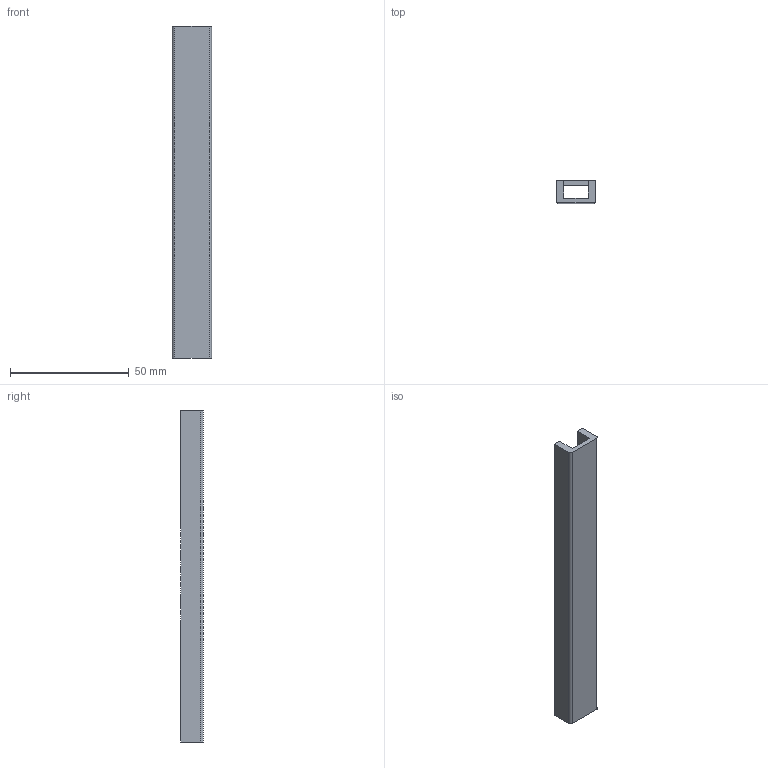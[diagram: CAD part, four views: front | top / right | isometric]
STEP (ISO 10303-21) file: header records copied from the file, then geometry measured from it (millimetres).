
FILE_DESCRIPTION(('STEP AP203'), '1');
FILE_NAME('strips', '', ('UNSPECIFIED'), ('UNSPECIFIED'), 'ASCON STEP Converter 1.3', 'ASCON Math Kernel', '');
FILE_SCHEMA(('CONFIG_CONTROL_DESIGN'));
Length unit declared in the file: millimetre
Bounding box: 16.5 x 9.5 x 140 mm (x, y, z)
Volume: 11398.3 mm3; surface area: 9986.2 mm2
Topology: 1 solids, 1 shells, 17 faces, 51 edges, 34 vertices
Faces by surface type: plane 12, cylinder 5
Full cylindrical faces by diameter (mm): 8 x3
Entity records: 756 total; most frequent: CARTESIAN_POINT 100, ORIENTED_EDGE 96, DIRECTION 94, EDGE_CURVE 48, LINE 38, VECTOR 38, VERTEX_POINT 34, AXIS2_PLACEMENT_3D 28
